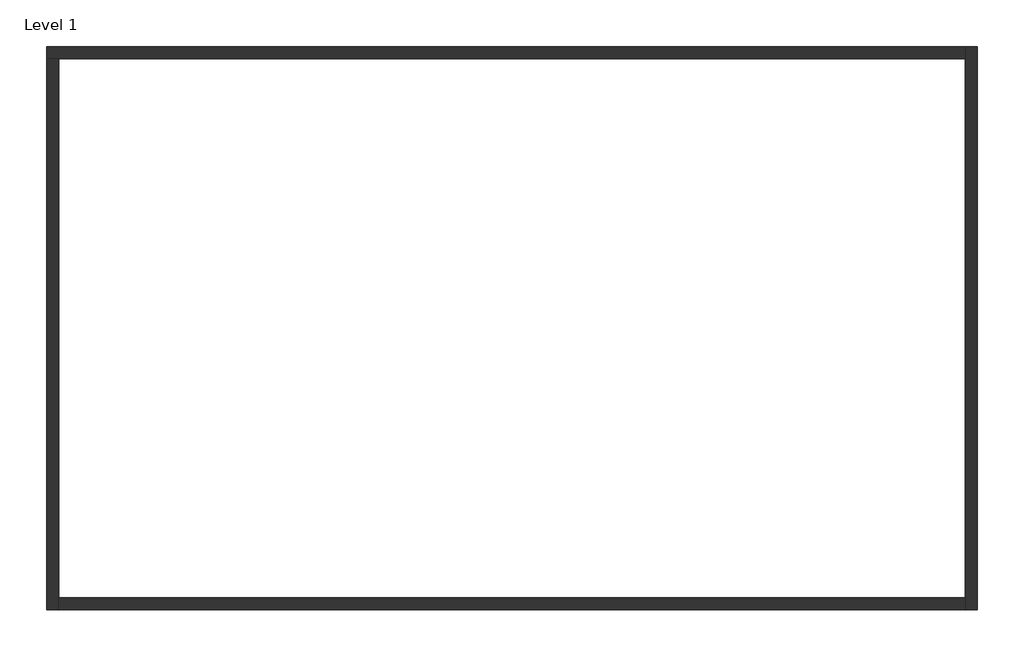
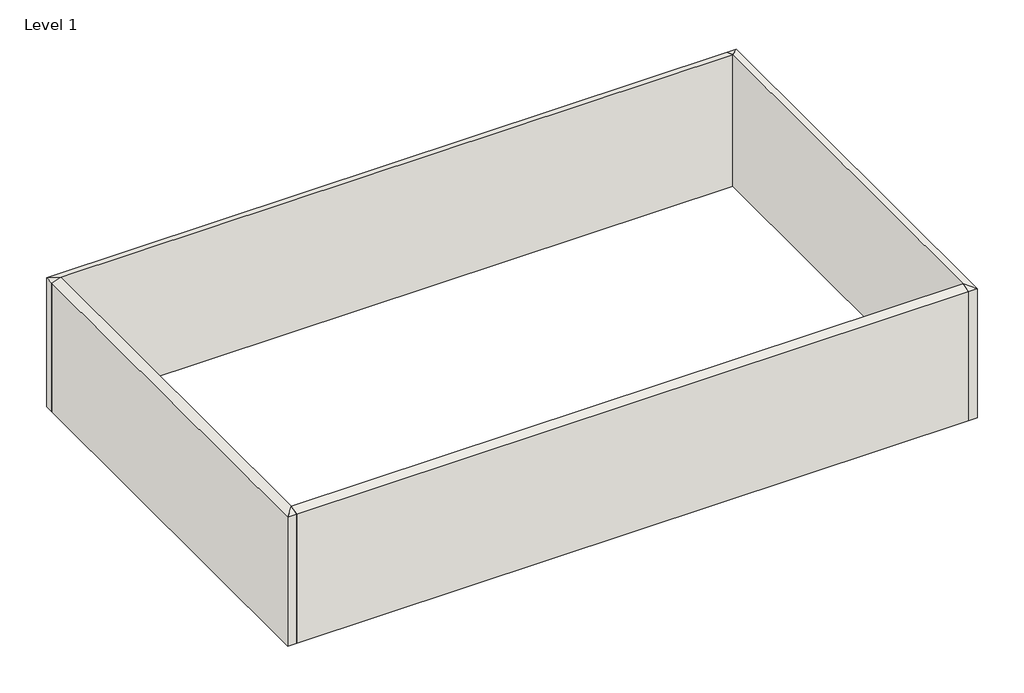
# One storey: 4 walls.
"""IFC4 building model written with IfcOpenShell, lengths in millimetres."""

from ifc_helpers import new_model, si_unit, frame, origin, place, context, project, spatial, polyline, outline, extrude, faceted_brep, element, save

model = new_model("IFC4")

# Units and contexts
model_context = context("Model", 3, world=origin())
ifc_project = project(units=[si_unit("LENGTHUNIT", "METRE", prefix="MILLI")], contexts=[model_context])

# Site, building, storey
site = spatial("IfcSite", under=ifc_project)
building = spatial("IfcBuilding", under=site)
storey = spatial("IfcBuildingStorey", under=building, Name="Level 1", Elevation=0.0)

# Walls
placement = place(None, origin())
element("IfcWall", 1, ObjectType="Generic - 8\"", at=placement, inside=storey, context=model_context, shape_type="Brep", body=[
    faceted_brep([(-7840.93909, 9212.1412302, 0.0), (-7637.73909, 9212.1412302, 0.0), (7399.06091, 9212.1412302, 0.0), (7399.06091, 9212.1412302, 3115.7333333), (-7637.73909, 9212.1412302, 3115.7333333), (-7840.93909, 9212.1412302, 3048.0), (-7840.93909, 9415.3412302, 0.0), (-7840.93909, 9415.3412302, 3048.0), (7399.06091, 9415.3412302, 3048.0), (7399.06091, 9415.3412302, 0.0)], [[[0, 1, 2, 3, 4, 5]], [[6, 7, 8, 9]], [[2, 1, 0, 6, 9]], [[0, 5, 7, 6]], [[3, 2, 9, 8]], [[5, 4, 7]], [[4, 3, 8, 7]]]),
])
element("IfcWall", 2, ObjectType="Generic - 8\"", at=placement, inside=storey, context=model_context, shape_type="Brep", body=[
    faceted_brep([(-7637.73909, 68.1412302, 0.0), (-7637.73909, 271.3412302, 0.0), (-7637.73909, 9212.1412302, 0.0), (-7637.73909, 9212.1412302, 3115.7333333), (-7637.73909, 271.3412302, 3115.7333333), (-7637.73909, 68.1412302, 3048.0), (-7840.93909, 68.1412302, 0.0), (-7840.93909, 68.1412302, 3048.0), (-7840.93909, 9212.1412302, 3048.0), (-7840.93909, 9212.1412302, 0.0)], [[[0, 1, 2, 3, 4, 5]], [[6, 7, 8, 9]], [[2, 1, 0, 6, 9]], [[0, 5, 7, 6]], [[3, 2, 9, 8]], [[5, 4, 7]], [[4, 3, 8, 7]]]),
])
element("IfcWall", 3, ObjectType="Generic - 8\"", at=placement, inside=storey, context=model_context, shape_type="SweptSolid", body=[
    extrude(outline(polyline([(271.3412302, 3115.7333333), (271.3412302, 0.0), (68.1412302, 0.0), (68.1412302, 3048.0), (271.3412302, 3115.7333333)])), frame((-7637.73909, 0.0, 0.0), z_axis=(1.0, 0.0, 0.0), x_axis=(0.0, 1.0, 0.0)), (0.0, 0.0, 1.0), 15036.8),
])
element("IfcWall", 4, ObjectType="Generic - 8\"", at=placement, inside=storey, context=model_context, shape_type="Brep", body=[
    faceted_brep([(7399.06091, 9415.3412302, 0.0), (7399.06091, 9212.1412302, 0.0), (7399.06091, 271.3412302, 0.0), (7399.06091, 68.1412302, 0.0), (7399.06091, 68.1412302, 3048.0), (7399.06091, 271.3412302, 3115.7333333), (7399.06091, 9212.1412302, 3115.7333333), (7399.06091, 9415.3412302, 3048.0), (7602.26091, 9415.3412302, 0.0), (7602.26091, 9415.3412302, 3048.0), (7602.26091, 68.1412302, 3048.0), (7602.26091, 68.1412302, 0.0)], [[[0, 1, 2, 3, 4, 5, 6, 7]], [[8, 9, 10, 11]], [[3, 2, 1, 0, 8, 11]], [[0, 7, 9, 8]], [[4, 3, 11, 10]], [[7, 6, 9]], [[6, 5, 10, 9]], [[5, 4, 10]]]),
])

save(model, "model.ifc")
